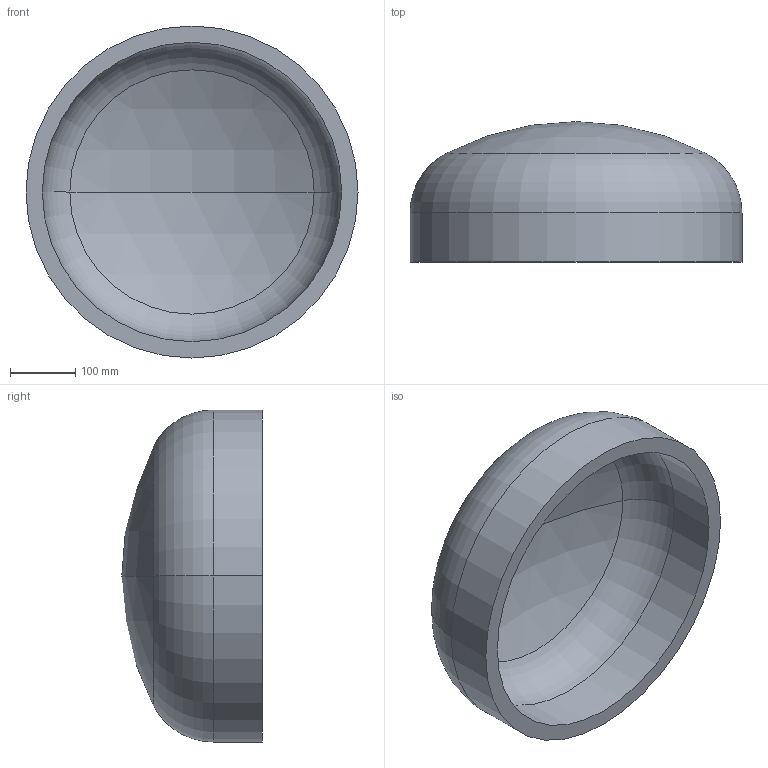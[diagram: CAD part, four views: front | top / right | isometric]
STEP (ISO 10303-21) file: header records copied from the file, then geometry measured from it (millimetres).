
FILE_DESCRIPTION (( 'STEP AP203' ), '1' );
FILE_NAME ('DIN 28013 Korbbogenform_-_Boden DIN 28013 - 508 x 75 - I - s=25.step', '2016-07-01T07:53:26', ( '' ), ( '' ), 'SwSTEP 2.0', 'SolidWorks 2013', '' );
FILE_SCHEMA (( 'CONFIG_CONTROL_DESIGN' ));
Length unit declared in the file: millimetre
Products named in the file (1): DIN 28013 Korbbogenform_-_Boden DIN 28013 - 508 x 75 - I - s=25
Bounding box: 508 x 214.82 x 508 mm (x, y, z)
Volume: 9428968.9 mm3; surface area: 793561.1 mm2
Topology: 1 solids, 1 shells, 13 faces, 24 edges, 14 vertices
Faces by surface type: torus 4, cylinder 4, sphere 4, plane 1
Entity records: 407 total; most frequent: DIRECTION 72, CARTESIAN_POINT 52, ORIENTED_EDGE 48, AXIS2_PLACEMENT_3D 34, EDGE_CURVE 24, CIRCLE 20, VERTEX_POINT 14, EDGE_LOOP 14
